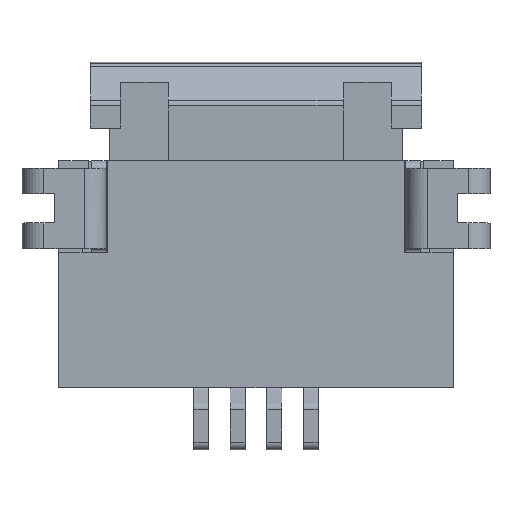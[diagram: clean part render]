
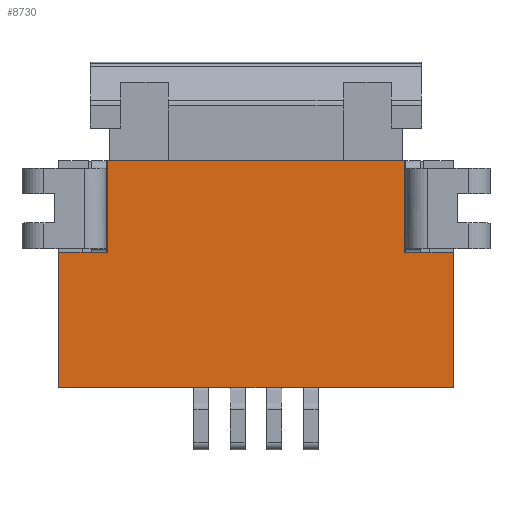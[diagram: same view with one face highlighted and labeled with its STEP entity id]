
A CAD part, top view. The second image highlights one B-rep face of the part: STEP entity #8730.
In plain terms, the highlighted planar face has unit normal (0, 0, 1).
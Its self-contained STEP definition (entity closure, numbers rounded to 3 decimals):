
#462=DIRECTION('',(1.,0.,0.));
#463=VECTOR('',#462,4.06);
#464=CARTESIAN_POINT('',(1.17,3.95,-0.05));
#465=LINE('',#464,#463);
#466=DIRECTION('',(0.,-1.,0.));
#467=VECTOR('',#466,1.25);
#468=CARTESIAN_POINT('',(5.23,3.95,-0.05));
#469=LINE('',#468,#467);
#470=DIRECTION('',(0.,-1.,0.));
#471=VECTOR('',#470,1.85);
#472=CARTESIAN_POINT('',(5.9,2.7,-0.05));
#473=LINE('',#472,#471);
#474=DIRECTION('',(-1.,0.,0.));
#475=VECTOR('',#474,5.4);
#476=CARTESIAN_POINT('',(5.9,0.85,-0.05));
#477=LINE('',#476,#475);
#478=DIRECTION('',(0.,1.,0.));
#479=VECTOR('',#478,1.85);
#480=CARTESIAN_POINT('',(0.5,0.85,-0.05));
#481=LINE('',#480,#479);
#482=DIRECTION('',(0.,1.,0.));
#483=VECTOR('',#482,1.25);
#484=CARTESIAN_POINT('',(1.17,2.7,-0.05));
#485=LINE('',#484,#483);
#2456=DIRECTION('',(-1.,0.,0.));
#2457=VECTOR('',#2456,0.67);
#2458=CARTESIAN_POINT('',(1.17,2.7,-0.05));
#2459=LINE('',#2458,#2457);
#3647=DIRECTION('',(-1.,0.,0.));
#3648=VECTOR('',#3647,0.67);
#3649=CARTESIAN_POINT('',(5.9,2.7,-0.05));
#3650=LINE('',#3649,#3648);
#6055=CARTESIAN_POINT('',(0.5,2.7,-0.05));
#6056=VERTEX_POINT('',#6055);
#6057=CARTESIAN_POINT('',(0.5,0.85,-0.05));
#6058=VERTEX_POINT('',#6057);
#6349=CARTESIAN_POINT('',(1.17,3.95,-0.05));
#6350=VERTEX_POINT('',#6349);
#6971=CARTESIAN_POINT('',(1.17,2.7,-0.05));
#6972=VERTEX_POINT('',#6971);
#7384=CARTESIAN_POINT('',(5.9,0.85,-0.05));
#7385=VERTEX_POINT('',#7384);
#7386=CARTESIAN_POINT('',(5.9,2.7,-0.05));
#7387=VERTEX_POINT('',#7386);
#7513=CARTESIAN_POINT('',(5.23,3.95,-0.05));
#7515=VERTEX_POINT('',#7513);
#7590=CARTESIAN_POINT('',(5.23,2.7,-0.05));
#7591=VERTEX_POINT('',#7590);
#8710=CARTESIAN_POINT('',(2.225,2.4,-0.05));
#8711=DIRECTION('',(0.,0.,1.));
#8712=DIRECTION('',(0.,-1.,0.));
#8713=AXIS2_PLACEMENT_3D('',#8710,#8711,#8712);
#8714=PLANE('',#8713);
#8716=ORIENTED_EDGE('',*,*,#8715,.T.);
#8718=ORIENTED_EDGE('',*,*,#8717,.T.);
#8720=ORIENTED_EDGE('',*,*,#8719,.F.);
#8721=ORIENTED_EDGE('',*,*,#8697,.T.);
#8722=ORIENTED_EDGE('',*,*,#8003,.T.);
#8723=ORIENTED_EDGE('',*,*,#7960,.T.);
#8725=ORIENTED_EDGE('',*,*,#8724,.F.);
#8727=ORIENTED_EDGE('',*,*,#8726,.T.);
#8728=EDGE_LOOP('',(#8716,#8718,#8720,#8721,#8722,#8723,#8725,#8727));
#8729=FACE_OUTER_BOUND('',#8728,.F.);
#7960=EDGE_CURVE('',#6058,#6056,#481,.T.);
#8003=EDGE_CURVE('',#7385,#6058,#477,.T.);
#8697=EDGE_CURVE('',#7387,#7385,#473,.T.);
#8715=EDGE_CURVE('',#6350,#7515,#465,.T.);
#8717=EDGE_CURVE('',#7515,#7591,#469,.T.);
#8719=EDGE_CURVE('',#7387,#7591,#3650,.T.);
#8724=EDGE_CURVE('',#6972,#6056,#2459,.T.);
#8726=EDGE_CURVE('',#6972,#6350,#485,.T.);
#8730=ADVANCED_FACE('',(#8729),#8714,.T.);
